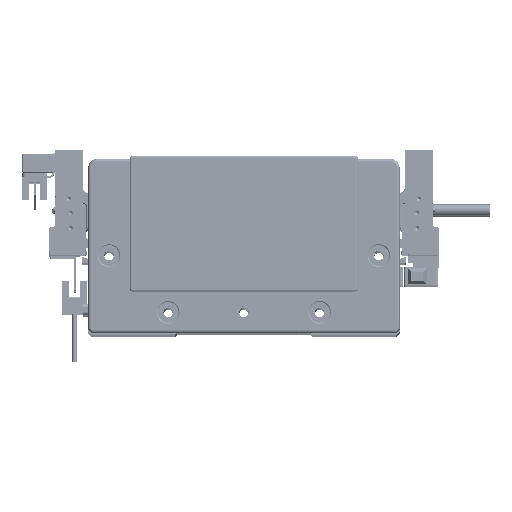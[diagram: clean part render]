
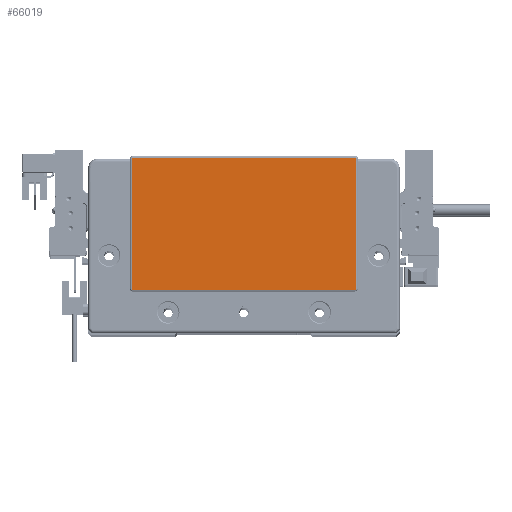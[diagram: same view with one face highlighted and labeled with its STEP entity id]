
A CAD part, top view. The second image highlights one B-rep face of the part: STEP entity #66019.
In plain terms, the highlighted planar face has unit normal (0, 0, 1) as drawn and (0, 0, -1) by its records, which use the part's own axes.
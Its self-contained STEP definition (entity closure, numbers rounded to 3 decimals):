
#2611 = VERTEX_POINT ( 'NONE', #100630 ) ;
#4702 = AXIS2_PLACEMENT_3D ( 'NONE', #14003, #68230, #61546 ) ;
#6523 = DIRECTION ( 'NONE',  ( 0., 0., -1. ) ) ;
#7435 = LINE ( 'NONE', #31467, #77107 ) ;
#8274 = DIRECTION ( 'NONE',  ( 0., 0., -1. ) ) ;
#8460 = EDGE_LOOP ( 'NONE', ( #45035, #96241, #43270, #14287, #77969, #29286, #8564, #16613 ) ) ;
#8564 = ORIENTED_EDGE ( 'NONE', *, *, #8575, .T. ) ;
#8575 = EDGE_CURVE ( 'NONE', #32065, #54690, #25155, .T. ) ;
#8809 = EDGE_CURVE ( 'NONE', #44639, #88416, #34015, .T. ) ;
#10645 = CIRCLE ( 'NONE', #26994, 0.5 ) ;
#12688 = CARTESIAN_POINT ( 'NONE',  ( 59.25, -23.3, -2. ) ) ;
#14003 = CARTESIAN_POINT ( 'NONE',  ( -58.75, -23.3, -2. ) ) ;
#14287 = ORIENTED_EDGE ( 'NONE', *, *, #67733, .T. ) ;
#14920 = AXIS2_PLACEMENT_3D ( 'NONE', #51450, #49945, #42310 ) ;
#15174 = CARTESIAN_POINT ( 'NONE',  ( -59.25, 45.3, -2. ) ) ;
#16613 = ORIENTED_EDGE ( 'NONE', *, *, #50618, .T. ) ;
#17639 = CARTESIAN_POINT ( 'NONE',  ( 59.25, -23.3, -2. ) ) ;
#19146 = AXIS2_PLACEMENT_3D ( 'NONE', #87506, #8274, #73549 ) ;
#19853 = FACE_OUTER_BOUND ( 'NONE', #8460, .T. ) ;
#25141 = PLANE ( 'NONE',  #19146 ) ;
#25155 = LINE ( 'NONE', #64036, #83021 ) ;
#26994 = AXIS2_PLACEMENT_3D ( 'NONE', #36205, #37191, #52542 ) ;
#29286 = ORIENTED_EDGE ( 'NONE', *, *, #93713, .T. ) ;
#31467 = CARTESIAN_POINT ( 'NONE',  ( -58.75, -23.8, -2. ) ) ;
#32065 = VERTEX_POINT ( 'NONE', #76963 ) ;
#33486 = LINE ( 'NONE', #17639, #48439 ) ;
#34015 = CIRCLE ( 'NONE', #91209, 0.5 ) ;
#35358 = EDGE_CURVE ( 'NONE', #88416, #83956, #7435, .T. ) ;
#36205 = CARTESIAN_POINT ( 'NONE',  ( 58.75, 45.3, -2. ) ) ;
#37191 = DIRECTION ( 'NONE',  ( 0., 0., -1. ) ) ;
#42310 = DIRECTION ( 'NONE',  ( -1., 0., 0. ) ) ;
#43031 = CARTESIAN_POINT ( 'NONE',  ( 58.75, -23.8, -2. ) ) ;
#43270 = ORIENTED_EDGE ( 'NONE', *, *, #35358, .T. ) ;
#44639 = VERTEX_POINT ( 'NONE', #12688 ) ;
#45035 = ORIENTED_EDGE ( 'NONE', *, *, #62816, .T. ) ;
#48439 = VECTOR ( 'NONE', #73901, 1000. ) ;
#49945 = DIRECTION ( 'NONE',  ( 0., 0., -1. ) ) ;
#50618 = EDGE_CURVE ( 'NONE', #54690, #92909, #10645, .T. ) ;
#51450 = CARTESIAN_POINT ( 'NONE',  ( -58.75, 45.3, -2. ) ) ;
#51544 = VECTOR ( 'NONE', #85239, 1000. ) ;
#51655 = EDGE_CURVE ( 'NONE', #2611, #56589, #54035, .T. ) ;
#52542 = DIRECTION ( 'NONE',  ( -1., 0., 0. ) ) ;
#54035 = LINE ( 'NONE', #15174, #51544 ) ;
#54690 = VERTEX_POINT ( 'NONE', #76346 ) ;
#55721 = CIRCLE ( 'NONE', #14920, 0.5 ) ;
#56320 = DIRECTION ( 'NONE',  ( 1., 0., 0. ) ) ;
#56589 = VERTEX_POINT ( 'NONE', #76757 ) ;
#60738 = CARTESIAN_POINT ( 'NONE',  ( 58.75, -23.3, -2. ) ) ;
#61546 = DIRECTION ( 'NONE',  ( -1., 0., 0. ) ) ;
#62816 = EDGE_CURVE ( 'NONE', #92909, #44639, #33486, .T. ) ;
#64036 = CARTESIAN_POINT ( 'NONE',  ( 58.75, 45.8, -2. ) ) ;
#66019 = ADVANCED_FACE ( 'NONE', ( #19853 ), #25141, .T. ) ;
#67733 = EDGE_CURVE ( 'NONE', #83956, #2611, #74936, .T. ) ;
#68230 = DIRECTION ( 'NONE',  ( 0., 0., -1. ) ) ;
#70419 = DIRECTION ( 'NONE',  ( -1., 0., 0. ) ) ;
#73189 = CARTESIAN_POINT ( 'NONE',  ( 59.25, 45.3, -2. ) ) ;
#73549 = DIRECTION ( 'NONE',  ( -1., 0., 0. ) ) ;
#73901 = DIRECTION ( 'NONE',  ( 0., -1., 0. ) ) ;
#74936 = CIRCLE ( 'NONE', #4702, 0.5 ) ;
#76346 = CARTESIAN_POINT ( 'NONE',  ( 58.75, 45.8, -2. ) ) ;
#76757 = CARTESIAN_POINT ( 'NONE',  ( -59.25, 45.3, -2. ) ) ;
#76963 = CARTESIAN_POINT ( 'NONE',  ( -58.75, 45.8, -2. ) ) ;
#77107 = VECTOR ( 'NONE', #86707, 1000. ) ;
#77969 = ORIENTED_EDGE ( 'NONE', *, *, #51655, .T. ) ;
#83021 = VECTOR ( 'NONE', #56320, 1000. ) ;
#83956 = VERTEX_POINT ( 'NONE', #91917 ) ;
#85239 = DIRECTION ( 'NONE',  ( 0., 1., 0. ) ) ;
#86707 = DIRECTION ( 'NONE',  ( -1., 0., 0. ) ) ;
#87506 = CARTESIAN_POINT ( 'NONE',  ( 0., 0., -2. ) ) ;
#88416 = VERTEX_POINT ( 'NONE', #43031 ) ;
#91209 = AXIS2_PLACEMENT_3D ( 'NONE', #60738, #6523, #70419 ) ;
#91917 = CARTESIAN_POINT ( 'NONE',  ( -58.75, -23.8, -2. ) ) ;
#92909 = VERTEX_POINT ( 'NONE', #73189 ) ;
#93713 = EDGE_CURVE ( 'NONE', #56589, #32065, #55721, .T. ) ;
#96241 = ORIENTED_EDGE ( 'NONE', *, *, #8809, .T. ) ;
#100630 = CARTESIAN_POINT ( 'NONE',  ( -59.25, -23.3, -2. ) ) ;
